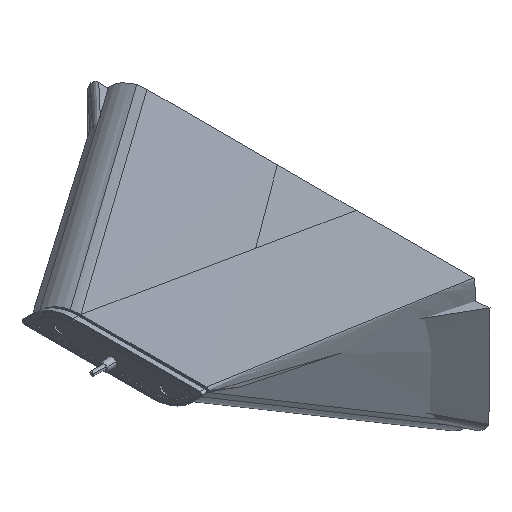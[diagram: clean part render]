
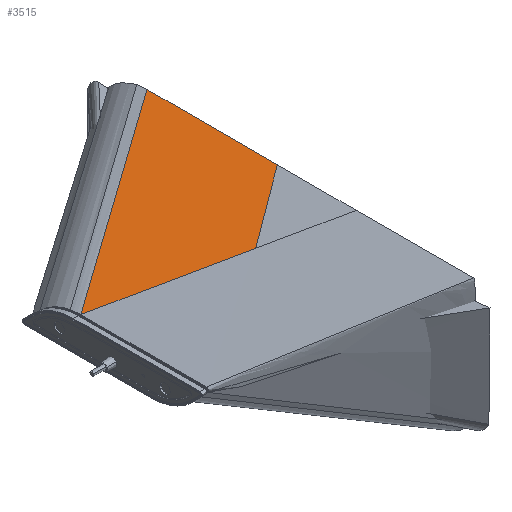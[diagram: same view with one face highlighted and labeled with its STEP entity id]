
A CAD part, isometric view. The second image highlights one B-rep face of the part: STEP entity #3515.
In plain terms, the highlighted free-form (B-spline) face has degree [5, 1] with [6, 2] control points.
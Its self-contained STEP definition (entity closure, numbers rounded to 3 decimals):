
#2148=CARTESIAN_POINT('Vertex',(8.9,44.455,16.185)) ;
#3434=CARTESIAN_POINT('Vertex',(200.,12.563,83.672)) ;
#3444=CARTESIAN_POINT('Vertex',(130.218,-32.603,59.128)) ;
#3448=CARTESIAN_POINT('Control Point',(130.218,-32.603,59.128)) ;
#3449=CARTESIAN_POINT('Control Point',(153.478,-17.548,67.309)) ;
#3450=CARTESIAN_POINT('Control Point',(176.739,-2.492,75.491)) ;
#3451=CARTESIAN_POINT('Control Point',(200.,12.563,83.672)) ;
#3460=CARTESIAN_POINT('Control Point',(130.218,-32.603,59.128)) ;
#3461=CARTESIAN_POINT('Control Point',(2588.88,1558.756,923.895)) ;
#3462=CARTESIAN_POINT('Control Point',(100.472,-13.709,48.599)) ;
#3463=CARTESIAN_POINT('Control Point',(2584.19,1566.545,923.895)) ;
#3464=CARTESIAN_POINT('Control Point',(72.268,4.205,38.616)) ;
#3465=CARTESIAN_POINT('Control Point',(2579.215,1574.741,923.895)) ;
#3466=CARTESIAN_POINT('Control Point',(57.073,13.857,33.237)) ;
#3467=CARTESIAN_POINT('Control Point',(2575.917,1580.078,923.895)) ;
#3468=CARTESIAN_POINT('Control Point',(37.682,26.173,26.373)) ;
#3469=CARTESIAN_POINT('Control Point',(2572.25,1586.101,923.895)) ;
#3470=CARTESIAN_POINT('Control Point',(8.9,44.455,16.185)) ;
#3471=CARTESIAN_POINT('Control Point',(2565.382,1597.133,923.895)) ;
#3473=CARTESIAN_POINT('Control Point',(130.218,-32.603,59.128)) ;
#3474=CARTESIAN_POINT('Control Point',(100.472,-13.709,48.599)) ;
#3475=CARTESIAN_POINT('Control Point',(72.268,4.205,38.616)) ;
#3476=CARTESIAN_POINT('Control Point',(57.073,13.857,33.237)) ;
#3477=CARTESIAN_POINT('Control Point',(37.682,26.173,26.373)) ;
#3478=CARTESIAN_POINT('Control Point',(8.9,44.455,16.185)) ;
#3481=CARTESIAN_POINT('Control Point',(8.9,44.455,16.185)) ;
#3482=CARTESIAN_POINT('Control Point',(200.,160.519,84.038)) ;
#3483=CARTESIAN_POINT('Vertex',(200.,160.519,84.038)) ;
#3487=CARTESIAN_POINT('Control Point',(200.,12.563,83.672)) ;
#3488=CARTESIAN_POINT('Control Point',(200.,18.987,83.669)) ;
#3489=CARTESIAN_POINT('Control Point',(200.,25.395,83.667)) ;
#3490=CARTESIAN_POINT('Control Point',(200.,31.787,83.668)) ;
#3491=CARTESIAN_POINT('Control Point',(200.,43.436,83.671)) ;
#3492=CARTESIAN_POINT('Control Point',(200.,54.884,83.681)) ;
#3493=CARTESIAN_POINT('Control Point',(200.,60.062,83.686)) ;
#3494=CARTESIAN_POINT('Control Point',(200.,69.597,83.699)) ;
#3495=CARTESIAN_POINT('Control Point',(200.,78.927,83.716)) ;
#3496=CARTESIAN_POINT('Control Point',(200.,83.2,83.725)) ;
#3497=CARTESIAN_POINT('Control Point',(200.,91.101,83.743)) ;
#3498=CARTESIAN_POINT('Control Point',(200.,98.902,83.764)) ;
#3499=CARTESIAN_POINT('Control Point',(200.,102.497,83.775)) ;
#3500=CARTESIAN_POINT('Control Point',(200.,110.234,83.799)) ;
#3501=CARTESIAN_POINT('Control Point',(200.,118.012,83.827)) ;
#3502=CARTESIAN_POINT('Control Point',(200.,122.191,83.843)) ;
#3503=CARTESIAN_POINT('Control Point',(200.,132.126,83.885)) ;
#3504=CARTESIAN_POINT('Control Point',(200.,142.334,83.934)) ;
#3505=CARTESIAN_POINT('Control Point',(200.,148.299,83.965)) ;
#3506=CARTESIAN_POINT('Control Point',(200.,154.365,84.)) ;
#3507=CARTESIAN_POINT('Control Point',(200.,160.519,84.038)) ;
#3510=ORIENTED_EDGE('',*,*,#3452,.F.) ;
#3511=ORIENTED_EDGE('',*,*,#3479,.F.) ;
#3512=ORIENTED_EDGE('',*,*,#3485,.T.) ;
#3513=ORIENTED_EDGE('',*,*,#3508,.F.) ;
#3515=ADVANCED_FACE('Surface.3',(#3514),#3459,.T.) ;
#3447=B_SPLINE_CURVE_WITH_KNOTS('',3,(#3448,#3449,#3450,#3451),.UNSPECIFIED.,.F.,.U.,(4,4),(-1524.699,-1438.151),.UNSPECIFIED.) ;
#3472=B_SPLINE_CURVE_WITH_KNOTS('',5,(#3473,#3474,#3475,#3476,#3477,#3478),.UNSPECIFIED.,.F.,.U.,(6,6),(0.,133.947),.UNSPECIFIED.) ;
#3480=B_SPLINE_CURVE_WITH_KNOTS('',1,(#3481,#3482),.UNSPECIFIED.,.F.,.U.,(2,2),(0.,228.27),.UNSPECIFIED.) ;
#3486=B_SPLINE_CURVE_WITH_KNOTS('',5,(#3487,#3488,#3489,#3490,#3491,#3492,#3493,#3494,#3495,#3496,#3497,#3498,#3499,#3500,#3501,#3502,#3503,#3504,#3505,#3506,#3507),.UNSPECIFIED.,.F.,.U.,(6,3,3,3,3,3,6),(0.,50.223,92.381,128.776,160.239,196.389,245.139),.UNSPECIFIED.) ;
#3459=B_SPLINE_SURFACE_WITH_KNOTS('',5,1,((#3460,#3461),(#3462,#3463),(#3464,#3465),(#3466,#3467),(#3468,#3469),(#3470,#3471)),.UNSPECIFIED.,.F.,.F.,.U.,(6,6),(2,2),(0.,133.947),(0.,3053.73),.UNSPECIFIED.) ;
#3452=EDGE_CURVE('',#3445,#3435,#3447,.T.) ;
#3479=EDGE_CURVE('',#2149,#3445,#3472,.F.) ;
#3485=EDGE_CURVE('',#2149,#3484,#3480,.T.) ;
#3508=EDGE_CURVE('',#3435,#3484,#3486,.T.) ;
#3509=EDGE_LOOP('',(#3510,#3511,#3512,#3513)) ;
#3514=FACE_OUTER_BOUND('',#3509,.T.) ;
#2149=VERTEX_POINT('',#2148) ;
#3435=VERTEX_POINT('',#3434) ;
#3445=VERTEX_POINT('',#3444) ;
#3484=VERTEX_POINT('',#3483) ;
